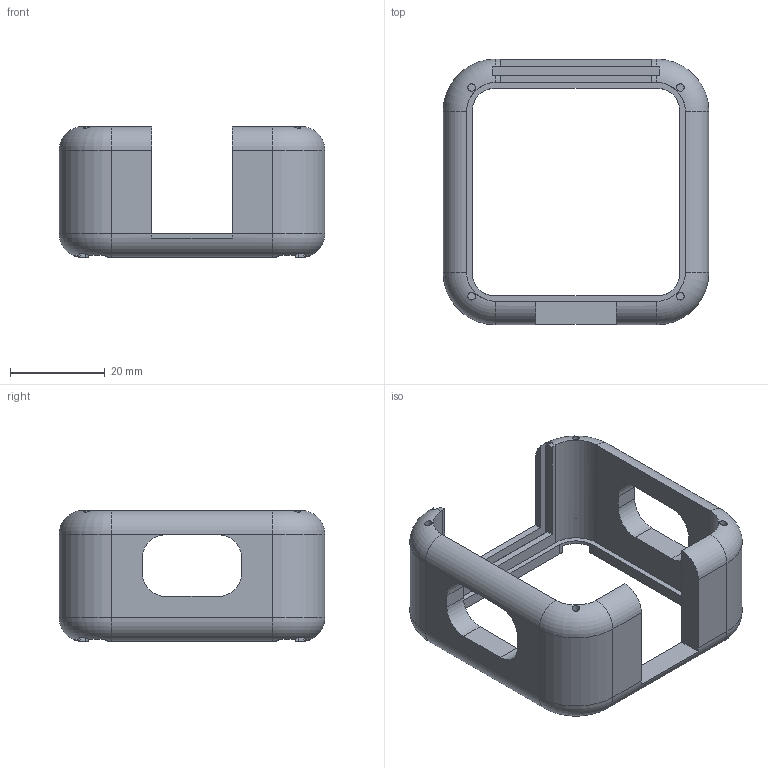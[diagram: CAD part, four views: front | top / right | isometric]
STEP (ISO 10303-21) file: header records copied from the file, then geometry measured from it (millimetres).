
FILE_DESCRIPTION(('Open CASCADE Model'),'2;1');
FILE_NAME('Open CASCADE Shape Model','2026-09-27T04:50:33',('Author'),( 'Open CASCADE'),'Open CASCADE STEP processor 7.8','Open CASCADE 7.8' ,'Unknown');
FILE_SCHEMA(('AUTOMOTIVE_DESIGN { 1 0 10303 214 1 1 1 1 }'));
Length unit declared in the file: millimetre
Products named in the file (1): Open CASCADE STEP translator 7.8 5
Bounding box: 56 x 56 x 27.6 mm (x, y, z)
Volume: 15722.9 mm3; surface area: 10322 mm2
Topology: 1 solids, 1 shells, 161 faces, 426 edges, 278 vertices
Faces by surface type: plane 81, cylinder 72, torus 8
Full cylindrical faces by diameter (mm): 1.6 x4
Entity records: 16203 total; most frequent: CARTESIAN_POINT 8096, DIRECTION 1404, ORIENTED_EDGE 852, PCURVE 852, DEFINITIONAL_REPRESENTATION 852, LINE 749, VECTOR 749, EDGE_CURVE 426
